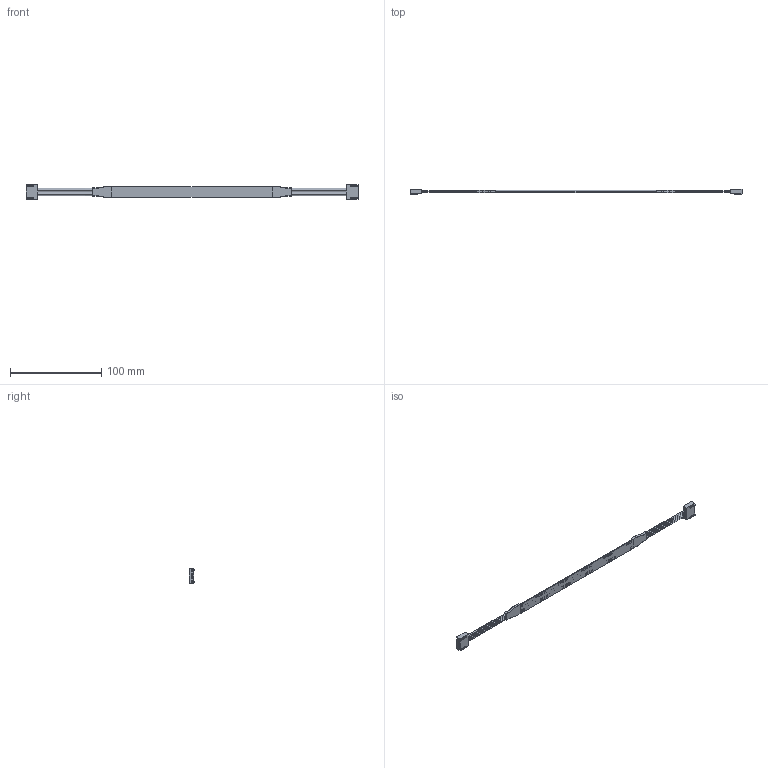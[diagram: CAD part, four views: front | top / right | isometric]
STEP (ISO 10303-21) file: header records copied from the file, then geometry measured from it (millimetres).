
FILE_DESCRIPTION (( 'STEP AP203' ), '1' );
FILE_NAME ('Polar RGBCCT.STEP', '2025-03-04T13:52:37', ( '' ), ( '' ), 'SwSTEP 2.0', 'SolidWorks 2020', '' );
FILE_SCHEMA (( 'CONFIG_CONTROL_DESIGN' ));
Products named in the file (1): Polar RGBCCT
Bounding box: 363 x 6.2 x 16 mm (x, y, z)
Volume: 6445.6 mm3; surface area: 10896.7 mm2
Topology: 1 solids, 1 shells, 1705 faces, 4352 edges, 2692 vertices
Faces by surface type: plane 930, bspline 330, cylinder 313, sphere 116, torus 16
Entity records: 70109 total; most frequent: CARTESIAN_POINT 31284, ORIENTED_EDGE 8472, DIRECTION 6978, EDGE_CURVE 4236, LINE 2926, VECTOR 2926, VERTEX_POINT 2692, AXIS2_PLACEMENT_3D 2026
